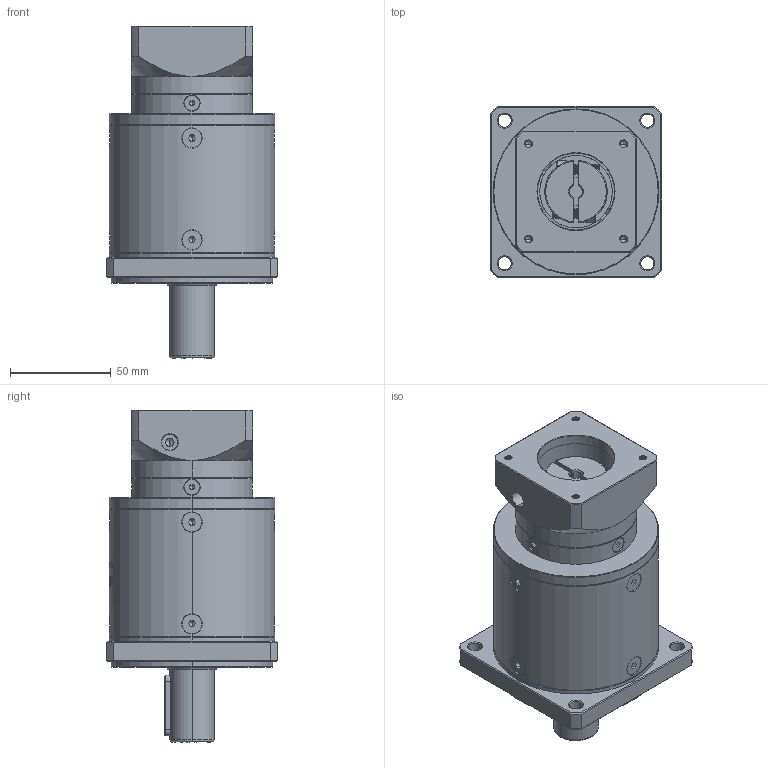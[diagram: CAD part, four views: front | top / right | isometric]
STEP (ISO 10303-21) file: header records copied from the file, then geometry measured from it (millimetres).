
FILE_DESCRIPTION (( 'STEP AP214' ), '1' );
FILE_NAME ('ZF80-D22-L3-6.35-38.1-47.14X47.14-M4.step', '2022-05-08T09:28:27', ( '' ), ( 'Microsoft' ), 'SwSTEP 2.0', 'SolidWorks 2016', '' );
FILE_SCHEMA (( 'AUTOMOTIVE_DESIGN' ));
Length unit declared in the file: millimetre
Products named in the file (1): ZF80-D22-L3-6.35-38.1-47.14X47.14-M4
Bounding box: 85 x 85 x 164.5 mm (x, y, z)
Volume: 580010.1 mm3; surface area: 72910.5 mm2
Topology: 18 solids, 18 shells, 2002 faces, 5241 edges, 3335 vertices
Faces by surface type: plane 948, cylinder 393, bspline 328, cone 319, torus 14
Entity records: 105502 total; most frequent: CARTESIAN_POINT 37616, ORIENTED_EDGE 10406, DIRECTION 8309, EDGE_CURVE 5203, VERTEX_POINT 3335, LINE 2801, VECTOR 2801, AXIS2_PLACEMENT_3D 2754
